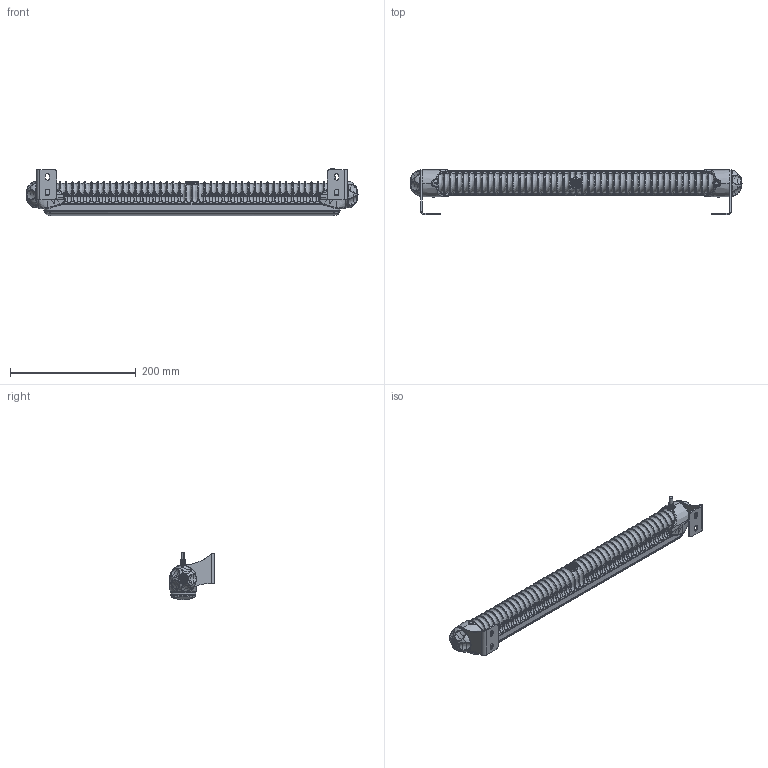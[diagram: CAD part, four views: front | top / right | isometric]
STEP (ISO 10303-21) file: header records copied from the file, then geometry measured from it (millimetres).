
FILE_DESCRIPTION(('CATIA V5 STEP Exchange','CAx-IF Rec.Pracs.--- Model Styling and Organization---1.5--- 2016-08-15','CAx-IF Rec.Pracs.---Supplemental Geometry---1.0---2011-11-01','CAx-IF Rec.Pracs.--- Composite Materials ---1.1---2010-07-15'),'2;1');
FILE_NAME('E:\tmp\ddx\2011219\HELLA_3D_data_RokLUME_S700_RED_2XD-958-130-661.stp','2022-01-18T07:17:45+00:00',('none'),('none'),'CATIA Version 5-6 Release 2020 SP3 HF9','CATIA V5 STEP AP214 Edition 3 v2','none');
FILE_SCHEMA(('AUTOMOTIVE_DESIGN { 1 0 10303 214 3 1 1 1 }'));
Products named in the file (1): 10002658342_D10_001
Bounding box: 528.19 x 72 x 75.3 mm (x, y, z)
Volume: 861510.9 mm3; surface area: 143736.6 mm2
Topology: 15 solids, 15 shells, 6434 faces, 15935 edges, 9293 vertices
Faces by surface type: bspline 5031, plane 466, cylinder 326, torus 290, sphere 176, cone 145
Entity records: 561084 total; most frequent: CARTESIAN_POINT 467987, ORIENTED_EDGE 31334, EDGE_CURVE 15667, B_SPLINE_CURVE_WITH_KNOTS 11672, VERTEX_POINT 9293, EDGE_LOOP 6502, ADVANCED_FACE 6434, FACE_OUTER_BOUND 6434
